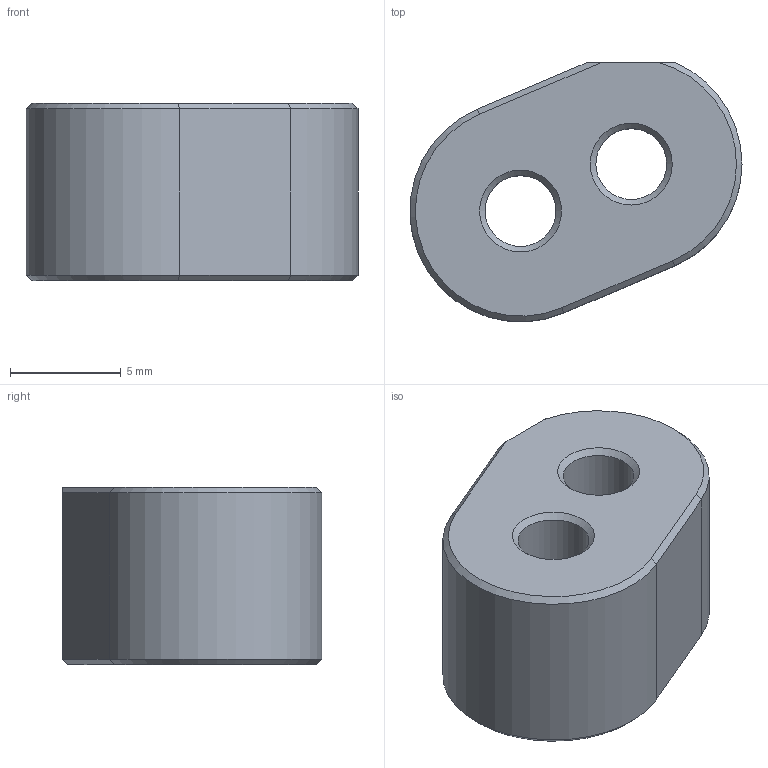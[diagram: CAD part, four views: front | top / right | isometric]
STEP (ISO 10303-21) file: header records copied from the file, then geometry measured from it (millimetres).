
FILE_DESCRIPTION(/* description */ (''),/* implementation_level */ '2;1');
FILE_NAME(/* name */ 'Y Carriage End stoppper_.step',/* time_stamp */ '2023-07-15T19:01:16+02:00',/* author */ (''),/* organization */ (''),/* preprocessor_version */ 'ST-DEVELOPER v19.2',/* originating_system */ 'Autodesk Translation Framework v12.6.0.85',/* authorisation */ '');
FILE_SCHEMA (('AUTOMOTIVE_DESIGN { 1 0 10303 214 3 1 1 }'));
Length unit declared in the file: millimetre
Products named in the file (1): Y Carriage End stoppper
Bounding box: 14.99 x 11.72 x 8 mm (x, y, z)
Volume: 739.7 mm3; surface area: 745.6 mm2
Topology: 1 solids, 1 shells, 31 faces, 68 edges, 40 vertices
Faces by surface type: plane 15, cone 10, cylinder 6
Full cylindrical faces by diameter (mm): 3.2 x2
Entity records: 877 total; most frequent: DIRECTION 152, CARTESIAN_POINT 145, ORIENTED_EDGE 136, EDGE_CURVE 68, AXIS2_PLACEMENT_3D 54, LINE 44, VECTOR 44, VERTEX_POINT 40
